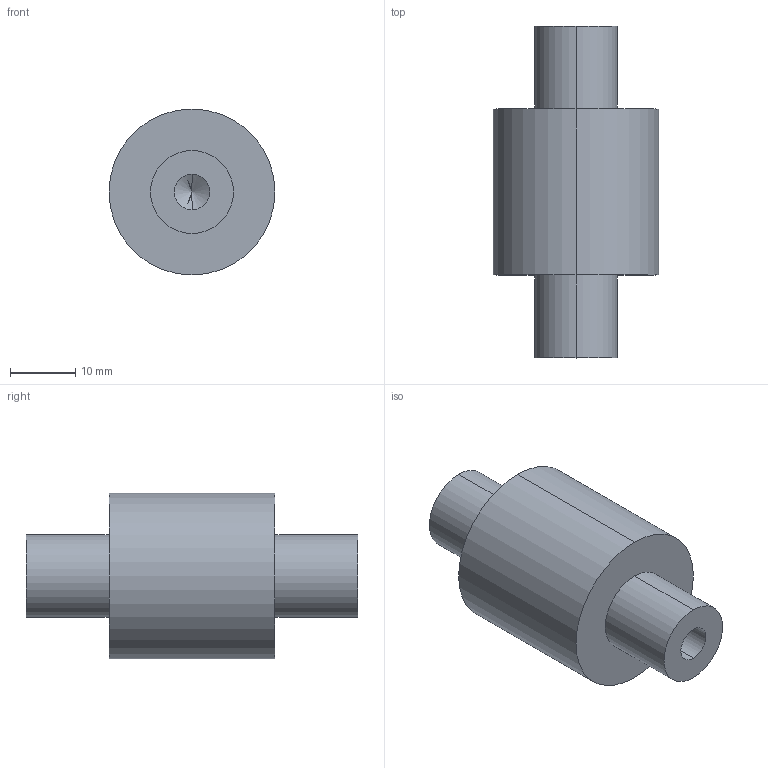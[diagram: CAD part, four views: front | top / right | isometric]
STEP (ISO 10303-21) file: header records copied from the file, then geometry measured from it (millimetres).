
FILE_DESCRIPTION (( 'STEP AP214' ), '1' );
FILE_NAME ('SS1432-500KG-F-F.STEP', '2024-09-04T16:03:06', ( '' ), ( '' ), 'SwSTEP 2.0', 'SolidWorks 2008', '' );
FILE_SCHEMA (( 'AUTOMOTIVE_DESIGN' ));
Length unit declared in the file: inch
Products named in the file (1): SS1432-500KG-F-F
Bounding box: 25.4 x 50.8 x 25.4 mm (x, y, z)
Volume: 15479.1 mm3; surface area: 4493 mm2
Topology: 1 solids, 1 shells, 18 faces, 38 edges, 22 vertices
Faces by surface type: cylinder 10, cone 4, plane 4
Entity records: 541 total; most frequent: DIRECTION 92, CARTESIAN_POINT 75, ORIENTED_EDGE 68, AXIS2_PLACEMENT_3D 39, EDGE_CURVE 34, VERTEX_POINT 22, EDGE_LOOP 22, CIRCLE 20
